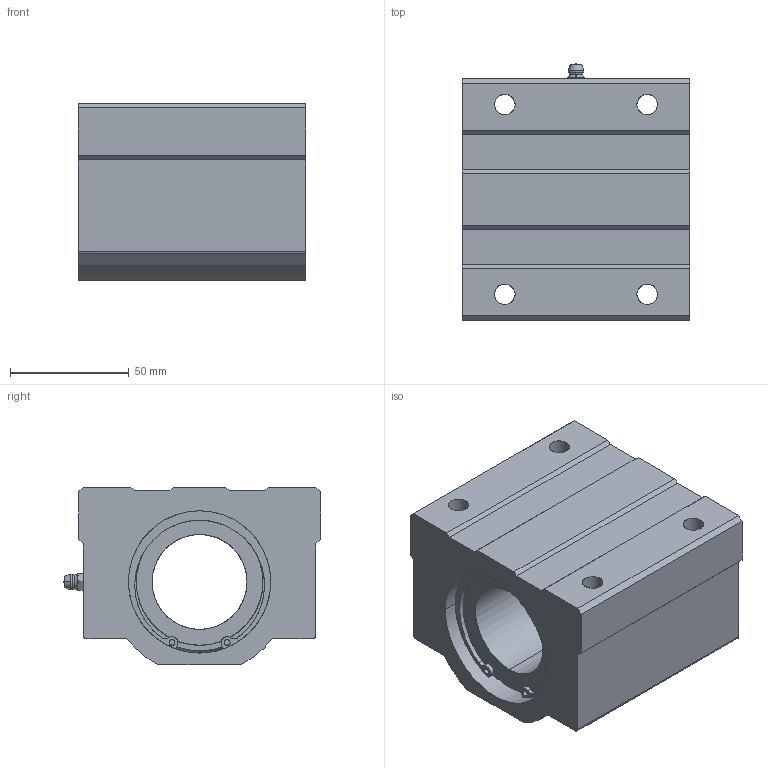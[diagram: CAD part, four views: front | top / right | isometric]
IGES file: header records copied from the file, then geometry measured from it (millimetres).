
Global section: file name: No Iges File Name specified; native system: AutoDesk Inventor R10; preprocessor: AutoDesk Inventor Iges Exporter R10; author: No Author specified; organization: No Organization specified; date: 20101214.143701; units: millimetre
Bounding box: 96 x 108.4 x 75 mm (x, y, z)
Surface area: 67883 mm2 (no closed solid volume)
Topology: 0 solids, 0 shells, 134 faces, 908 edges, 904 vertices
Faces by surface type: bspline 134
